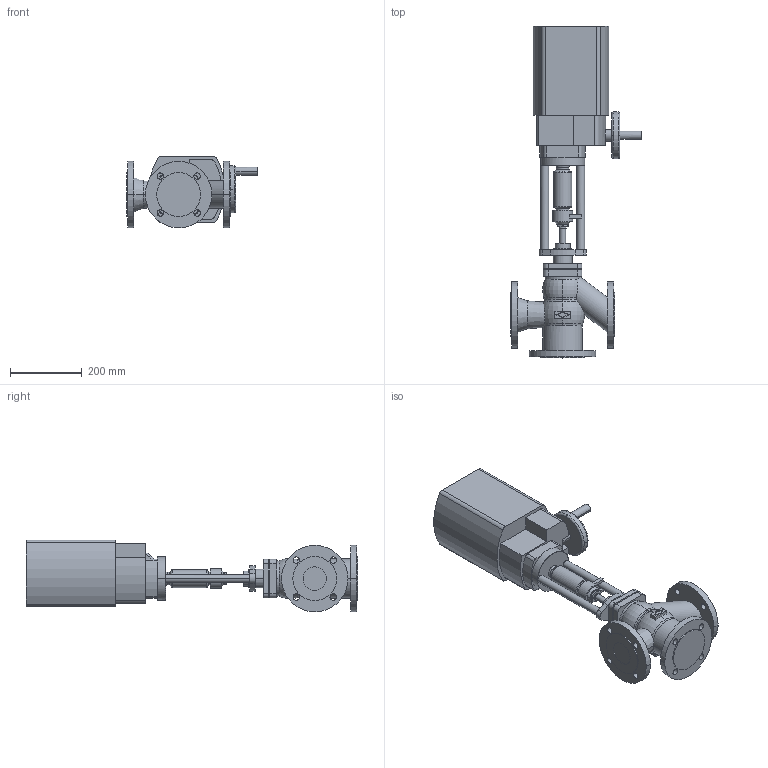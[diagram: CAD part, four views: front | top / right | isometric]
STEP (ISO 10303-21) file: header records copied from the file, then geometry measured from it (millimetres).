
FILE_DESCRIPTION( ( '' ), '1' );
FILE_NAME( 'F:/DE-SHS/TB/OR/04-Sonstiges/daten/files_3d/450-PREMIO-Plus-2G/c000006521.stp', '2017-02-22T12:50:59', ( '' ), ( '' ), ' ', ' ', ' ' );
FILE_SCHEMA( ( 'CONFIG_CONTROL_DESIGN' ) );
Length unit declared in the file: millimetre
Products named in the file (2): 1; 2
Bounding box: 364.05 x 923 x 199.3 mm (x, y, z)
Volume: 17302752.3 mm3; surface area: 775183.1 mm2
Topology: 2 solids, 2 shells, 251 faces, 631 edges, 412 vertices
Faces by surface type: cylinder 110, plane 103, torus 26, cone 12
Entity records: 8118 total; most frequent: CARTESIAN_POINT 1674, DIRECTION 1446, ORIENTED_EDGE 1262, EDGE_CURVE 631, AXIS2_PLACEMENT_3D 584, VERTEX_POINT 412, CIRCLE 329, EDGE_LOOP 303
